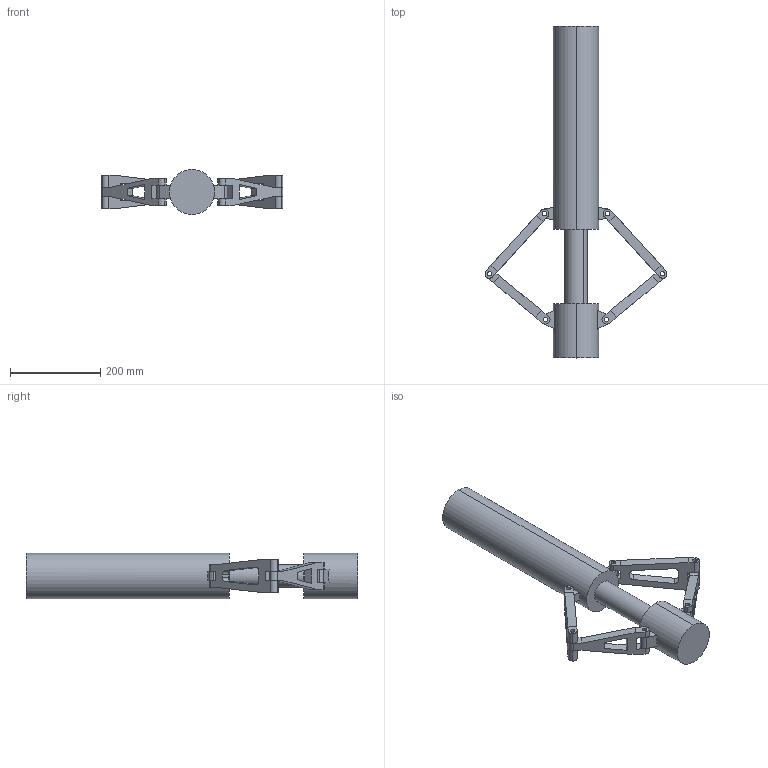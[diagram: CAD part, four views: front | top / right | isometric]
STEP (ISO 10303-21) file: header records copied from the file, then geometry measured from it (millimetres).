
FILE_DESCRIPTION (( 'STEP AP214' ), '1' );
FILE_NAME ('c07_tut02.STEP', '2012-11-05T10:50:02', ( '' ), ( '' ), 'SwSTEP 2.0', 'SolidWorks 2012', '' );
FILE_SCHEMA (( 'AUTOMOTIVE_DESIGN' ));
Length unit declared in the file: millimetre
Products named in the file (6): Upper_Arm; Lower_Arm; Top_cylinder; Piston_rod; Base_cyl; c07_tut02
Assembly tree (7 placements, depth 2):
  c07_tut02
    Base_cyl
    Piston_rod
    Top_cylinder
    Lower_Arm  x2
    Upper_Arm  x2
Bounding box: 402.56 x 734.39 x 100 mm (x, y, z)
Volume: 2858901.6 mm3; surface area: 542891.6 mm2
Topology: 7 solids, 7 shells, 198 faces, 519 edges, 346 vertices
Faces by surface type: plane 101, cylinder 97
Entity records: 4350 total; most frequent: DIRECTION 740, CARTESIAN_POINT 739, ORIENTED_EDGE 672, EDGE_CURVE 336, AXIS2_PLACEMENT_3D 273, VERTEX_POINT 224, LINE 194, VECTOR 194
